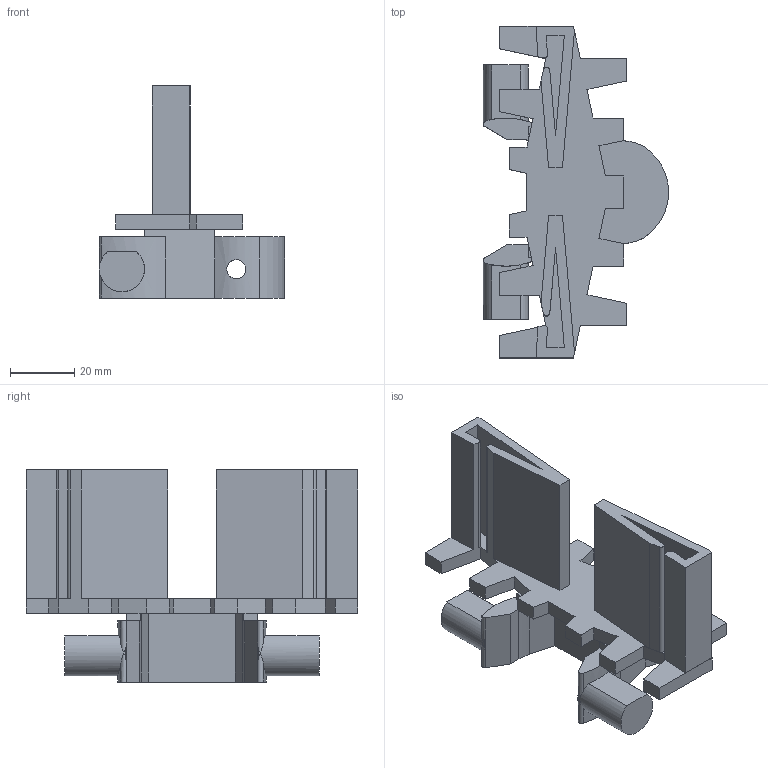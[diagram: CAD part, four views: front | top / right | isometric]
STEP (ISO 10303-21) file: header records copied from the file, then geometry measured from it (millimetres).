
FILE_DESCRIPTION (( 'STEP AP214' ), '1' );
FILE_NAME ('FCCT 5A40.step', '2017-04-04T13:29:02', ( '' ), ( '' ), 'SwSTEP 2.0', 'SolidWorks 2015', '' );
FILE_SCHEMA (( 'AUTOMOTIVE_DESIGN' ));
Length unit declared in the file: millimetre
Products named in the file (1): FCCT 5A40
Bounding box: 57.5 x 103 x 65.9 mm (x, y, z)
Volume: 61043.6 mm3; surface area: 28864 mm2
Topology: 1 solids, 1 shells, 117 faces, 335 edges, 220 vertices
Faces by surface type: plane 96, cylinder 21
Entity records: 4064 total; most frequent: CARTESIAN_POINT 964, ORIENTED_EDGE 670, DIRECTION 594, EDGE_CURVE 335, VECTOR 278, LINE 278, VERTEX_POINT 220, AXIS2_PLACEMENT_3D 158
